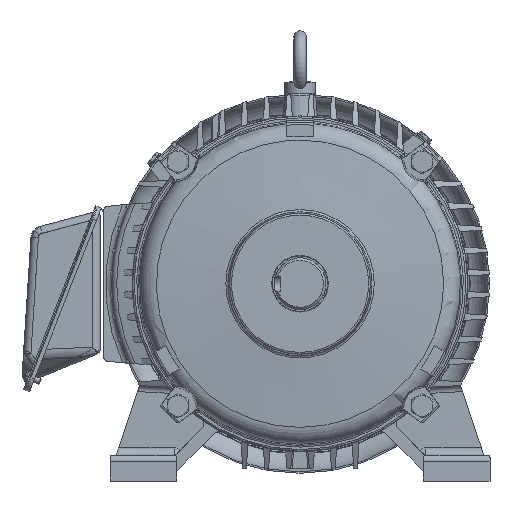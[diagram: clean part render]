
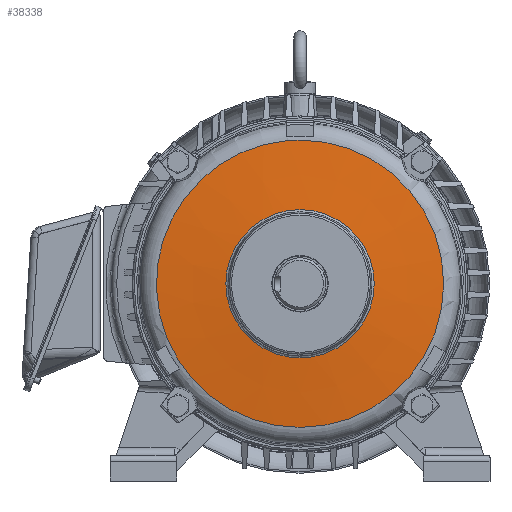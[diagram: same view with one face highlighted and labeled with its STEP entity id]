
A CAD part, front view. The second image highlights one B-rep face of the part: STEP entity #38338.
In plain terms, the highlighted conical face has half-angle 84.748 degrees and reference radius 58.5 mm.
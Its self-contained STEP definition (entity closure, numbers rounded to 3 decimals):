
#2904=CONICAL_SURFACE('',#41127,58.5,1.479);
#3740=CIRCLE('',#41123,116.474);
#3743=CIRCLE('',#41128,60.143);
#8515=ORIENTED_EDGE('',*,*,#17128,.T.);
#8516=ORIENTED_EDGE('',*,*,#17131,.T.);
#17128=EDGE_CURVE('',#21697,#21697,#3740,.T.);
#17131=EDGE_CURVE('',#21700,#21700,#3743,.T.);
#21697=VERTEX_POINT('',#67082);
#21700=VERTEX_POINT('',#67090);
#27940=EDGE_LOOP('',(#8515));
#27941=EDGE_LOOP('',(#8516));
#30378=FACE_BOUND('',#27940,.T.);
#30379=FACE_BOUND('',#27941,.T.);
#38338=ADVANCED_FACE('',(#30378,#30379),#2904,.T.);
#41123=AXIS2_PLACEMENT_3D('',#67081,#46896,#46897);
#41127=AXIS2_PLACEMENT_3D('',#67088,#46904,#46905);
#41128=AXIS2_PLACEMENT_3D('',#67089,#46906,#46907);
#46896=DIRECTION('',(0.,-1.,0.));
#46897=DIRECTION('',(0.,0.,-1.));
#46904=DIRECTION('',(0.,1.,0.));
#46905=DIRECTION('',(0.,0.,1.));
#46906=DIRECTION('',(0.,1.,0.));
#46907=DIRECTION('',(0.,0.,1.));
#67081=CARTESIAN_POINT('',(0.,20.329,0.));
#67082=CARTESIAN_POINT('',(0.,20.329,-116.474));
#67088=CARTESIAN_POINT('',(0.,15.,0.));
#67089=CARTESIAN_POINT('',(0.,15.151,0.));
#67090=CARTESIAN_POINT('',(0.,15.151,60.143));
